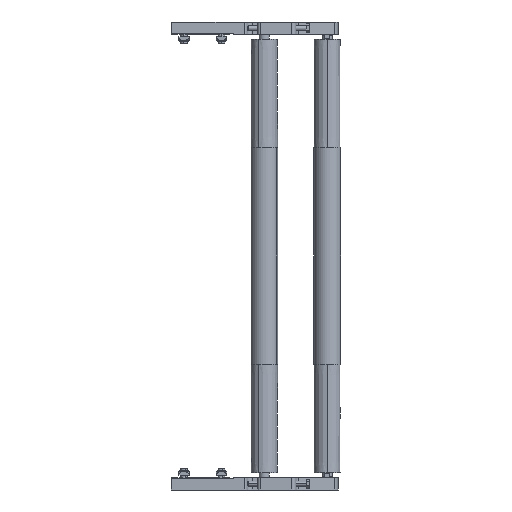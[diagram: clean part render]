
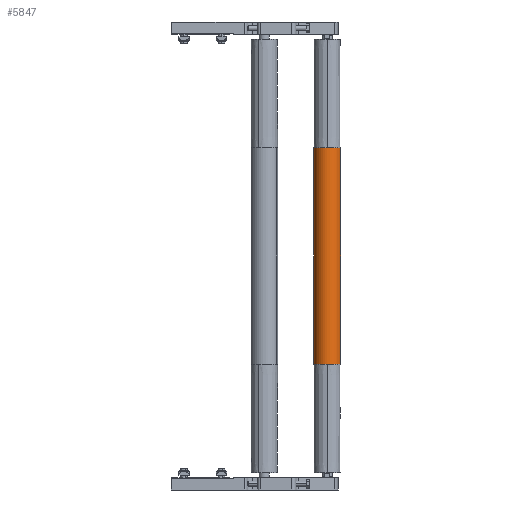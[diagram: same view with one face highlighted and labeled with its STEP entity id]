
A CAD part, front view. The second image highlights one B-rep face of the part: STEP entity #5847.
In plain terms, the highlighted cylindrical face has radius 16 mm (diameter 32 mm), a partial arc.
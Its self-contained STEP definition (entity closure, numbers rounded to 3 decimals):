
#132 = EDGE_LOOP ( 'NONE', ( #5570, #8154, #8573, #4503, #8031, #16271 ) ) ;
#162 = CARTESIAN_POINT ( 'NONE',  ( 0., 0., 130. ) ) ;
#505 = EDGE_CURVE ( 'NONE', #5350, #5997, #3036, .T. ) ;
#1028 = DIRECTION ( 'NONE',  ( 0., -1., 0. ) ) ;
#1131 = CYLINDRICAL_SURFACE ( 'NONE', #7150, 16. ) ;
#1380 = VERTEX_POINT ( 'NONE', #14460 ) ;
#1581 = AXIS2_PLACEMENT_3D ( 'NONE', #16705, #8841, #1028 ) ;
#1609 = AXIS2_PLACEMENT_3D ( 'NONE', #5780, #13659, #4441 ) ;
#2047 = EDGE_CURVE ( 'NONE', #16122, #9096, #4003, .T. ) ;
#2265 = VECTOR ( 'NONE', #3781, 1000. ) ;
#2669 = LINE ( 'NONE', #11636, #2265 ) ;
#3036 = CIRCLE ( 'NONE', #1609, 16. ) ;
#3781 = DIRECTION ( 'NONE',  ( 0., 0., -1. ) ) ;
#4003 = CIRCLE ( 'NONE', #11698, 16. ) ;
#4441 = DIRECTION ( 'NONE',  ( 0., -1., 0. ) ) ;
#4503 = ORIENTED_EDGE ( 'NONE', *, *, #14180, .T. ) ;
#5350 = VERTEX_POINT ( 'NONE', #13749 ) ;
#5570 = ORIENTED_EDGE ( 'NONE', *, *, #13502, .F. ) ;
#5780 = CARTESIAN_POINT ( 'NONE',  ( 0., 0., -130. ) ) ;
#5847 = ADVANCED_FACE ( 'NONE', ( #11555 ), #1131, .T. ) ;
#5997 = VERTEX_POINT ( 'NONE', #16073 ) ;
#6374 = VERTEX_POINT ( 'NONE', #15769 ) ;
#6407 = AXIS2_PLACEMENT_3D ( 'NONE', #15620, #7747, #16935 ) ;
#6597 = DIRECTION ( 'NONE',  ( 0., 0., -1. ) ) ;
#7150 = AXIS2_PLACEMENT_3D ( 'NONE', #14482, #6597, #11821 ) ;
#7339 = CIRCLE ( 'NONE', #1581, 16. ) ;
#7585 = DIRECTION ( 'NONE',  ( 0., 0., -1. ) ) ;
#7747 = DIRECTION ( 'NONE',  ( 0., 0., 1. ) ) ;
#7964 = DIRECTION ( 'NONE',  ( 0., 0., 1. ) ) ;
#8031 = ORIENTED_EDGE ( 'NONE', *, *, #9885, .T. ) ;
#8154 = ORIENTED_EDGE ( 'NONE', *, *, #2047, .F. ) ;
#8486 = CARTESIAN_POINT ( 'NONE',  ( 16., 0., 130. ) ) ;
#8573 = ORIENTED_EDGE ( 'NONE', *, *, #16612, .F. ) ;
#8841 = DIRECTION ( 'NONE',  ( 0., 0., 1. ) ) ;
#9096 = VERTEX_POINT ( 'NONE', #8486 ) ;
#9656 = VECTOR ( 'NONE', #7585, 1000. ) ;
#9885 = EDGE_CURVE ( 'NONE', #1380, #5350, #10447, .T. ) ;
#10447 = CIRCLE ( 'NONE', #6407, 16. ) ;
#11480 = CARTESIAN_POINT ( 'NONE',  ( 16., 0., 260. ) ) ;
#11555 = FACE_OUTER_BOUND ( 'NONE', #132, .T. ) ;
#11636 = CARTESIAN_POINT ( 'NONE',  ( -16., 0., 260. ) ) ;
#11698 = AXIS2_PLACEMENT_3D ( 'NONE', #162, #7964, #15823 ) ;
#11821 = DIRECTION ( 'NONE',  ( -1., 0., 0. ) ) ;
#13502 = EDGE_CURVE ( 'NONE', #9096, #5997, #16645, .T. ) ;
#13659 = DIRECTION ( 'NONE',  ( 0., 0., 1. ) ) ;
#13749 = CARTESIAN_POINT ( 'NONE',  ( 0., -16., -130. ) ) ;
#14180 = EDGE_CURVE ( 'NONE', #6374, #1380, #2669, .T. ) ;
#14460 = CARTESIAN_POINT ( 'NONE',  ( -16., 0., -130. ) ) ;
#14482 = CARTESIAN_POINT ( 'NONE',  ( 0., 0., 260. ) ) ;
#15620 = CARTESIAN_POINT ( 'NONE',  ( 0., 0., -130. ) ) ;
#15723 = CARTESIAN_POINT ( 'NONE',  ( 0., -16., 130. ) ) ;
#15769 = CARTESIAN_POINT ( 'NONE',  ( -16., 0., 130. ) ) ;
#15823 = DIRECTION ( 'NONE',  ( 0., -1., 0. ) ) ;
#16073 = CARTESIAN_POINT ( 'NONE',  ( 16., 0., -130. ) ) ;
#16122 = VERTEX_POINT ( 'NONE', #15723 ) ;
#16271 = ORIENTED_EDGE ( 'NONE', *, *, #505, .T. ) ;
#16612 = EDGE_CURVE ( 'NONE', #6374, #16122, #7339, .T. ) ;
#16645 = LINE ( 'NONE', #11480, #9656 ) ;
#16705 = CARTESIAN_POINT ( 'NONE',  ( 0., 0., 130. ) ) ;
#16935 = DIRECTION ( 'NONE',  ( 0., -1., 0. ) ) ;
